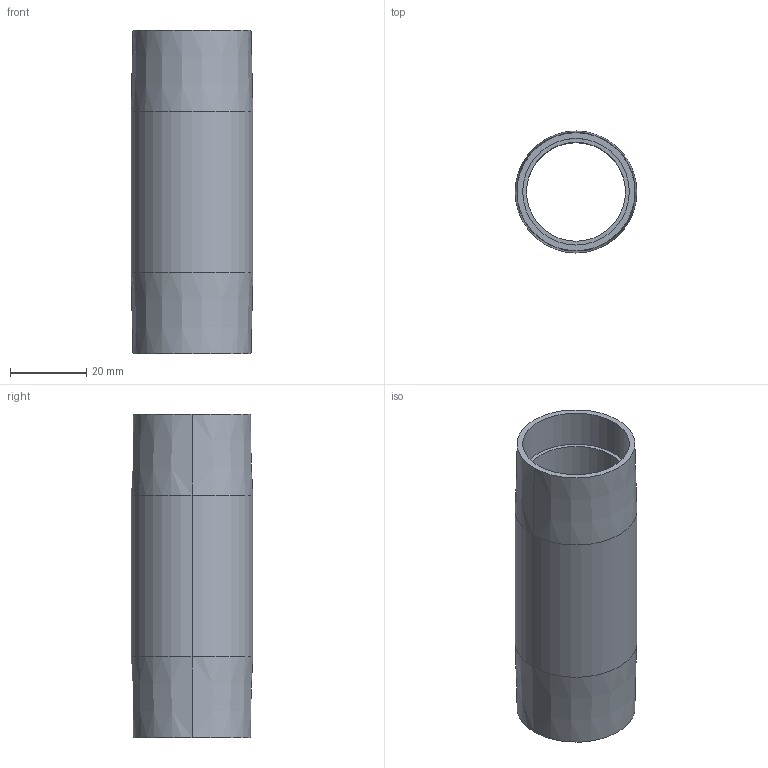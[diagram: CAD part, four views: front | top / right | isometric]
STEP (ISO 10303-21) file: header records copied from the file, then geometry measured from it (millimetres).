
FILE_DESCRIPTION (( 'STEP AP214' ), '1' );
FILE_NAME ('084.030.104.STEP', '2021-02-05T15:31:48', ( '' ), ( '' ), 'SwSTEP 2.0', 'SolidWorks 2018', '' );
FILE_SCHEMA (( 'AUTOMOTIVE_DESIGN' ));
Length unit declared in the file: millimetre
Products named in the file (1): 084.030.104
Bounding box: 32 x 32 x 85 mm (x, y, z)
Volume: 20478.6 mm3; surface area: 15995.8 mm2
Topology: 1 solids, 1 shells, 16 faces, 32 edges, 20 vertices
Faces by surface type: cylinder 8, cone 4, plane 4
Entity records: 462 total; most frequent: DIRECTION 86, CARTESIAN_POINT 69, ORIENTED_EDGE 64, AXIS2_PLACEMENT_3D 37, EDGE_CURVE 32, VERTEX_POINT 20, CIRCLE 20, EDGE_LOOP 20
